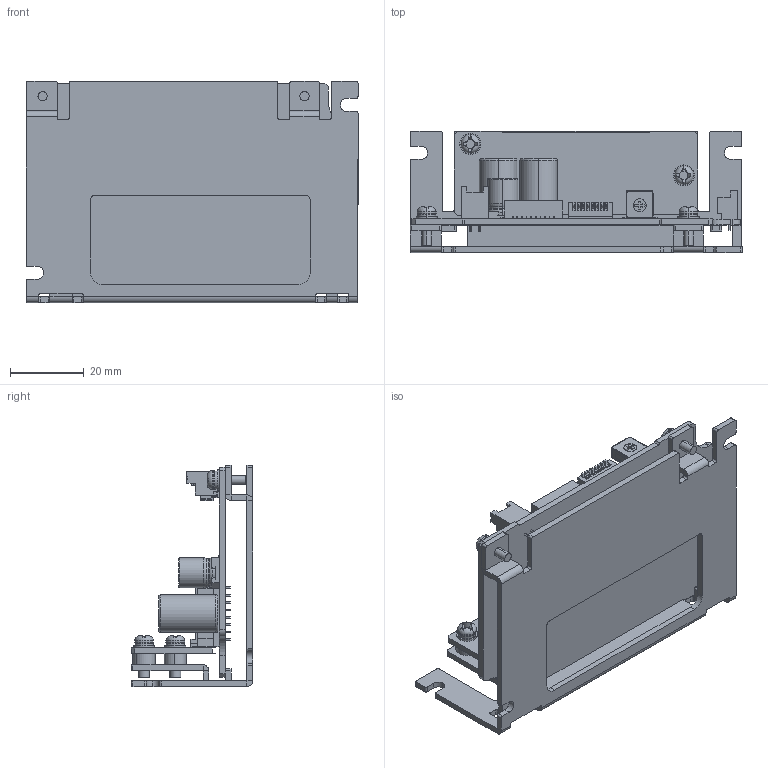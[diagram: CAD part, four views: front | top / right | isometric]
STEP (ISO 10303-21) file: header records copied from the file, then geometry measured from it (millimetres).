
FILE_DESCRIPTION (( 'STEP AP214' ), '1' );
FILE_NAME ('PDSA-BX_3D.STEP', '2021-12-24T04:16:51', ( '' ), ( '' ), 'SwSTEP 2.0', 'SolidWorks 2018', '' );
FILE_SCHEMA (( 'AUTOMOTIVE_DESIGN' ));
Length unit declared in the file: millimetre
Products named in the file (1): PDSA-BX_3D
Bounding box: 90 x 33 x 60 mm (x, y, z)
Surface area: 31637.6 mm2 (no closed solid volume)
Topology: 0 solids, 50 shells, 1093 faces, 3550 edges, 2450 vertices
Faces by surface type: plane 878, cylinder 181, torus 34
Entity records: 50170 total; most frequent: CARTESIAN_POINT 7582, DIRECTION 6097, ORIENTED_EDGE 5828, EDGE_CURVE 3550, VECTOR 3047, LINE 3047, VERTEX_POINT 2450, AXIS2_PLACEMENT_3D 1525
